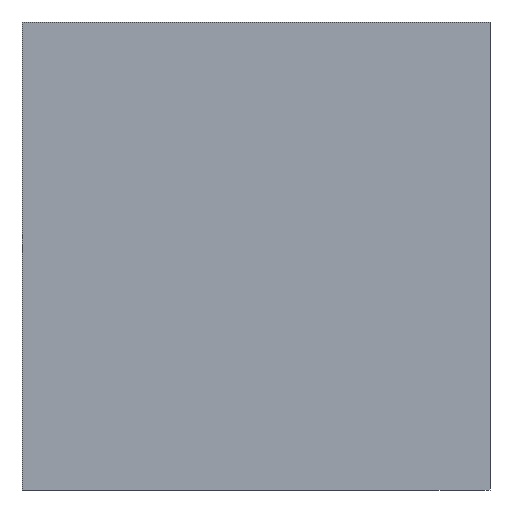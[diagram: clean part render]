
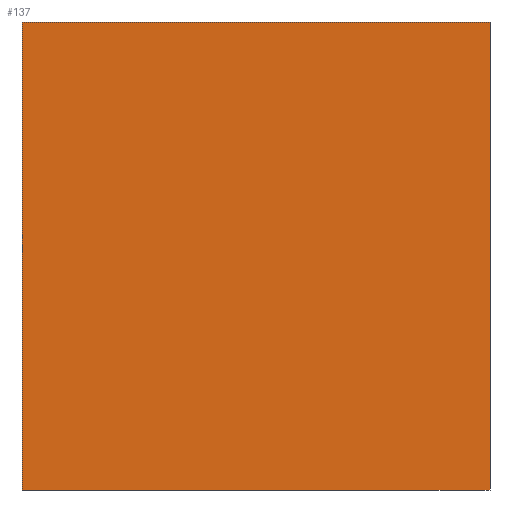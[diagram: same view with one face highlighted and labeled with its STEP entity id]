
A CAD part, left-side view. The second image highlights one B-rep face of the part: STEP entity #137.
In plain terms, the highlighted planar face has unit normal (-1, 0, 0).
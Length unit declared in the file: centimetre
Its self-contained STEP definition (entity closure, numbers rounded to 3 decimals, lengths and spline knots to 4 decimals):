
#6 = VECTOR ( 'NONE', #188, 100. ) ;
#11 = CARTESIAN_POINT ( 'NONE',  ( 0., 1000., 1000. ) ) ;
#37 = VERTEX_POINT ( 'NONE', #11 ) ;
#69 = EDGE_CURVE ( 'NONE', #37, #179, #231, .T. ) ;
#85 = ORIENTED_EDGE ( 'NONE', *, *, #158, .F. ) ;
#98 = CARTESIAN_POINT ( 'NONE',  ( 0., 1000., 1000. ) ) ;
#116 = DIRECTION ( 'NONE',  ( 0., 0., -1. ) ) ;
#137 = ADVANCED_FACE ( 'NONE', ( #624 ), #566, .F. ) ;
#139 = CARTESIAN_POINT ( 'NONE',  ( 0., 1000., 0. ) ) ;
#158 = EDGE_CURVE ( 'NONE', #37, #657, #517, .T. ) ;
#175 = CARTESIAN_POINT ( 'NONE',  ( 0., 1000., 1000. ) ) ;
#179 = VERTEX_POINT ( 'NONE', #465 ) ;
#188 = DIRECTION ( 'NONE',  ( 0., 0., -1. ) ) ;
#208 = VECTOR ( 'NONE', #116, 100. ) ;
#212 = DIRECTION ( 'NONE',  ( 0., -1., 0. ) ) ;
#215 = CARTESIAN_POINT ( 'NONE',  ( 0., 1000., 1000. ) ) ;
#231 = LINE ( 'NONE', #175, #208 ) ;
#233 = EDGE_LOOP ( 'NONE', ( #414, #559, #85, #493 ) ) ;
#256 = DIRECTION ( 'NONE',  ( 0., 0., -1. ) ) ;
#260 = VERTEX_POINT ( 'NONE', #535 ) ;
#325 = EDGE_CURVE ( 'NONE', #179, #260, #436, .T. ) ;
#343 = VECTOR ( 'NONE', #212, 100. ) ;
#374 = EDGE_CURVE ( 'NONE', #657, #260, #505, .T. ) ;
#375 = AXIS2_PLACEMENT_3D ( 'NONE', #98, #620, #256 ) ;
#414 = ORIENTED_EDGE ( 'NONE', *, *, #325, .T. ) ;
#426 = CARTESIAN_POINT ( 'NONE',  ( 0., 0., 1000. ) ) ;
#436 = LINE ( 'NONE', #139, #507 ) ;
#465 = CARTESIAN_POINT ( 'NONE',  ( 0., 1000., 0. ) ) ;
#493 = ORIENTED_EDGE ( 'NONE', *, *, #69, .T. ) ;
#505 = LINE ( 'NONE', #547, #6 ) ;
#507 = VECTOR ( 'NONE', #552, 100. ) ;
#517 = LINE ( 'NONE', #215, #343 ) ;
#535 = CARTESIAN_POINT ( 'NONE',  ( 0., 0., 0. ) ) ;
#547 = CARTESIAN_POINT ( 'NONE',  ( 0., 0., 1000. ) ) ;
#552 = DIRECTION ( 'NONE',  ( 0., -1., 0. ) ) ;
#559 = ORIENTED_EDGE ( 'NONE', *, *, #374, .F. ) ;
#566 = PLANE ( 'NONE',  #375 ) ;
#620 = DIRECTION ( 'NONE',  ( 1., 0., 0. ) ) ;
#624 = FACE_OUTER_BOUND ( 'NONE', #233, .T. ) ;
#657 = VERTEX_POINT ( 'NONE', #426 ) ;
